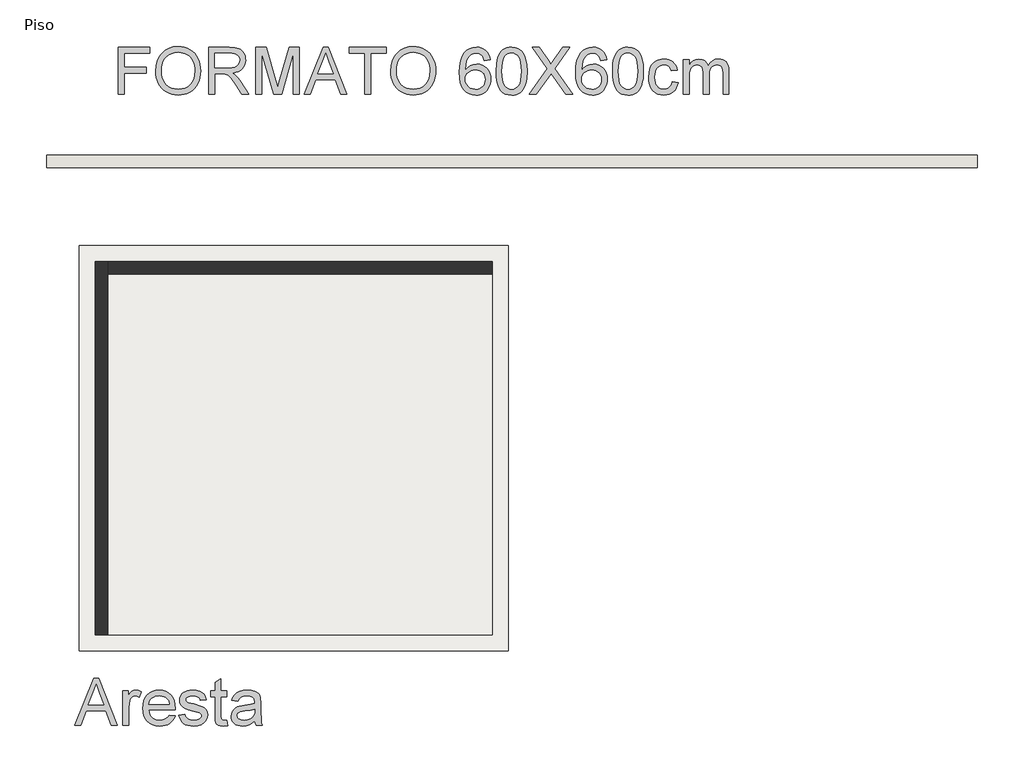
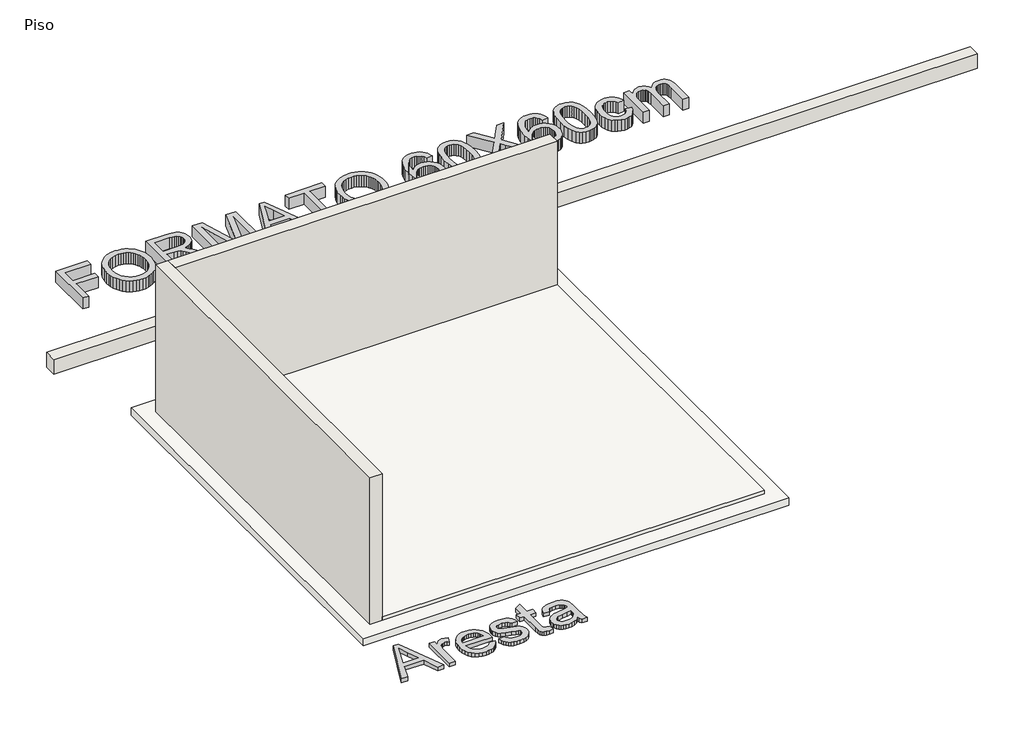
# One storey: 3 walls, 2 proxies, 2 slabs.
"""IFC4 building model written with IfcOpenShell, lengths in millimetres."""

from ifc_helpers import new_model, si_unit, frame, origin, origin_with_axes, place, context, project, spatial, polyline, outline, extrude, faceted_brep, element, save

model = new_model("IFC4")

# Units and contexts
model_context = context("Model", 3, world=origin())
ifc_project = project(units=[si_unit("LENGTHUNIT", "METRE", prefix="MILLI")], contexts=[model_context])

# Site, building, storey
site = spatial("IfcSite", under=ifc_project)
building = spatial("IfcBuilding", under=site)
storey = spatial("IfcBuildingStorey", under=building, Name="Piso", Elevation=0.0)

# Proxies
placement = place(None, origin())
element("IfcBuildingElementProxy", 1, Name="600mm Arial", ObjectType="600mm Arial", at=placement, inside=storey, context=model_context, shape_type="SweptSolid", body=[
    extrude(outline(polyline([(124602.0859381, 2702.6380465), (124602.0859381, 3305.3759074), (125007.0504384, 3305.3759074), (125007.0504384, 3230.0336748), (124677.4281707, 3230.0336748), (124677.4281707, 3051.0958724), (124959.961543, 3051.0958724), (124959.961543, 2975.7536397), (124677.4281707, 2975.7536397), (124677.4281707, 2702.6380465), (124602.0859381, 2702.6380465)])), origin_with_axes(), (0.0, 0.0, 1.0), 150.0),
    extrude(outline(polyline([(125082.392671, 2996.0607259), (125087.4142602, 3066.7584483), (125102.4790279, 3129.3443727), (125127.5869741, 3183.8184992), (125143.9071391, 3208.0136381), (125162.7380987, 3230.1808276), (125205.8262774, 3267.1989534), (125254.7453857, 3293.6404718), (125309.4954237, 3309.5053828), (125370.0763912, 3314.7936865), (125410.6261841, 3312.310483), (125449.134232, 3304.8608726), (125485.6005348, 3292.4448553), (125520.0250925, 3275.062431), (125551.4422148, 3253.2378317), (125578.8862117, 3227.495289), (125602.357083, 3197.8348032), (125621.8548287, 3164.2563741), (125637.1771138, 3127.5233569), (125648.1216032, 3088.3991067), (125654.6882968, 3046.8836235), (125656.8771947, 3002.9769074), (125654.5733337, 2958.4907771), (125647.6617507, 2916.4142739), (125636.1424457, 2876.7473978), (125620.0154187, 2839.4901487), (125599.6623474, 2805.6266111), (125575.4649091, 2776.1408692), (125547.423104, 2751.032923), (125515.5369321, 2730.3027726), (125481.0617906, 2714.0791766), (125445.2530769, 2702.4908937), (125408.110791, 2695.537924), (125369.6349328, 2693.2202674), (125328.3769671, 2695.7816458), (125289.3630815, 2703.465781), (125252.5932761, 2716.272673), (125218.0675508, 2734.2023217), (125186.6872166, 2756.56035), (125159.3535844, 2782.6523805), (125136.0666541, 2812.4784132), (125116.8264257, 2846.0384482), (125101.761658, 2881.9851177), (125091.0011097, 2918.9710538), (125084.5447807, 2956.9962565), (125082.392671, 2996.0607259)]), holes=[polyline([(125157.7349036, 2995.3249619), (125161.5010955, 2945.375784), (125172.7996713, 2901.0368065), (125191.6306309, 2862.3080295), (125217.9939744, 2829.1894529), (125250.0410947, 2802.665161), (125285.9233848, 2783.7192383), (125325.6408447, 2772.3516846), (125369.1934744, 2768.5625001), (125413.4910652, 2772.3884728), (125453.6775746, 2783.8663911), (125489.7530028, 2802.9962548), (125521.7173496, 2829.7780641), (125547.8875551, 2863.5956165), (125566.5805589, 2903.8327097), (125577.7963613, 2950.4893437), (125581.5349621, 3003.5655186), (125579.9346754, 3038.0452586), (125575.1338153, 3070.2625243), (125567.1323819, 3100.2173158), (125555.9303752, 3127.9096329), (125541.6519552, 3152.9761924), (125524.4212823, 3175.0537106), (125504.2383563, 3194.1421877), (125481.1031774, 3210.2416235), (125455.7331153, 3223.0209243), (125428.84554, 3232.1489963), (125400.4404514, 3237.6258395), (125370.5178496, 3239.4514539), (125328.4781346, 3235.9335823), (125289.4734461, 3225.3799676), (125253.503784, 3207.7906097), (125220.5691484, 3183.1655086), (125193.0791663, 3150.318245), (125173.4434648, 3108.0623993), (125161.6620439, 3056.3979716), (125157.7349036, 2995.3249619)])]), origin_with_axes(), (0.0, 0.0, 1.0), 150.0),
    extrude(outline(polyline([(125760.4727645, 2702.6380465), (125760.4727645, 3305.3759074), (126020.1974531, 3305.3759074), (126090.0030617, 3301.3108114), (126140.7891711, 3289.1155232), (126160.3880844, 3279.4218327), (126177.9084644, 3266.6011451), (126193.3503112, 3250.6534606), (126206.7136247, 3231.5787792), (126217.4971656, 3210.4025718), (126225.1996949, 3188.1503097), (126229.8212125, 3164.8219926), (126231.3617183, 3140.4176208), (126228.809537, 3109.4603509), (126221.152993, 3081.0414668), (126208.3920863, 3055.1609684), (126190.5268169, 3031.8188558), (126167.3272585, 3011.76009), (126138.563485, 2995.7296321), (126104.2354964, 2983.727482), (126064.3432925, 2975.7536397), (126089.1753272, 2959.5300438), (126107.1647568, 2943.527177), (126138.0300562, 2906.9229184), (126168.233168, 2865.9776524), (126268.738529, 2702.6380465), (126181.1826142, 2702.6380465), (126102.7501728, 2827.5707721), (126046.0963456, 2910.2706446), (126025.0351013, 2934.3853094), (126006.2915137, 2949.3397125), (125970.4598074, 2963.6871103), (125926.7554263, 2966.3358607), (125835.8149971, 2966.3358607), (125835.8149971, 2702.6380465), (125760.4727645, 2702.6380465)]), holes=[polyline([(125835.8149971, 3041.6780933), (126004.4521037, 3041.6780933), (126052.8837684, 3044.3452377), (126090.4629142, 3052.3466711), (126118.7530396, 3066.2158224), (126139.3176431, 3086.4861203), (126151.8440251, 3111.0054553), (126156.0194857, 3137.6217176), (126154.0283244, 3156.8895371), (126148.0548405, 3174.3731289), (126138.099034, 3190.0724931), (126124.1609049, 3203.9876296), (126105.9185565, 3215.3827744), (126083.050092, 3223.5221635), (126055.5555114, 3228.405797), (126023.4348147, 3230.0336748), (125835.8149971, 3230.0336748), (125835.8149971, 3041.6780933)])]), origin_with_axes(), (0.0, 0.0, 1.0), 150.0),
    extrude(outline(polyline([(126363.2106254, 2702.6380465), (126363.2106254, 3305.3759074), (126492.8522405, 3305.3759074), (126616.1662853, 2880.5457794), (126641.0351082, 2791.8126422), (126667.9640702, 2887.9034193), (126789.2179758, 3305.3759074), (126918.8595909, 3305.3759074), (126918.8595909, 2702.6380465), (126843.5173583, 2702.6380465), (126843.5173583, 3230.0336748), (126692.0971291, 2702.6380465), (126589.9730872, 2702.6380465), (126438.552858, 3230.0336748), (126438.552858, 2702.6380465), (126363.2106254, 2702.6380465)])), origin_with_axes(), (0.0, 0.0, 1.0), 150.0),
    extrude(outline(polyline([(126980.5166133, 2702.6380465), (127221.1114382, 3305.3759074), (127285.2700581, 3305.3759074), (127525.864883, 2702.6380465), (127446.2552192, 2702.6380465), (127377.2405569, 2890.9936281), (127128.9937866, 2890.9936281), (127060.1262771, 2702.6380465), (126980.5166133, 2702.6380465)]), holes=[polyline([(127156.6585126, 2966.3358607), (127349.7229837, 2966.3358607), (127295.4236012, 3114.5187283), (127253.1907481, 3230.0336748), (127215.6667846, 3127.4681746), (127156.6585126, 2966.3358607)])]), origin_with_axes(), (0.0, 0.0, 1.0), 150.0),
    extrude(outline(polyline([(127757.0419287, 2702.6380465), (127757.0419287, 3230.0336748), (127559.2685681, 3230.0336748), (127559.2685681, 3305.3759074), (128030.1575219, 3305.3759074), (128030.1575219, 3230.0336748), (127832.3841613, 3230.0336748), (127832.3841613, 2702.6380465), (127757.0419287, 2702.6380465)])), origin_with_axes(), (0.0, 0.0, 1.0), 150.0),
    extrude(outline(polyline([(128086.6641964, 2996.0607259), (128091.6857856, 3066.7584483), (128106.7505533, 3129.3443727), (128131.8584995, 3183.8184992), (128148.1786645, 3208.0136381), (128167.0096242, 3230.1808276), (128210.0978028, 3267.1989534), (128259.0169111, 3293.6404718), (128313.7669491, 3309.5053828), (128374.3479166, 3314.7936865), (128414.8977096, 3312.310483), (128453.4057574, 3304.8608726), (128489.8720602, 3292.4448553), (128524.2966179, 3275.062431), (128555.7137403, 3253.2378317), (128583.1577371, 3227.495289), (128606.6286084, 3197.8348032), (128626.1263541, 3164.2563741), (128641.4486392, 3127.5233569), (128652.3931286, 3088.3991067), (128658.9598222, 3046.8836235), (128661.1487201, 3002.9769074), (128658.8448591, 2958.4907771), (128651.9332761, 2916.4142739), (128640.4139711, 2876.7473978), (128624.2869442, 2839.4901487), (128603.9338728, 2805.6266111), (128579.7364345, 2776.1408692), (128551.6946295, 2751.032923), (128519.8084575, 2730.3027726), (128485.3333161, 2714.0791766), (128449.5246024, 2702.4908937), (128412.3823164, 2695.537924), (128373.9064582, 2693.2202674), (128332.6484925, 2695.7816458), (128293.6346069, 2703.465781), (128256.8648015, 2716.272673), (128222.3390762, 2734.2023217), (128190.958742, 2756.56035), (128163.6251098, 2782.6523805), (128140.3381795, 2812.4784132), (128121.0979512, 2846.0384482), (128106.0331835, 2881.9851177), (128095.2726351, 2918.9710538), (128088.8163061, 2956.9962565), (128086.6641964, 2996.0607259)]), holes=[polyline([(128162.006429, 2995.3249619), (128165.7726209, 2945.375784), (128177.0711967, 2901.0368065), (128195.9021564, 2862.3080295), (128222.2654998, 2829.1894529), (128254.3126201, 2802.665161), (128290.1949102, 2783.7192383), (128329.9123701, 2772.3516846), (128373.4649998, 2768.5625001), (128417.7625906, 2772.3884728), (128457.9491, 2783.8663911), (128494.0245282, 2802.9962548), (128525.988875, 2829.7780641), (128552.1590805, 2863.5956165), (128570.8520844, 2903.8327097), (128582.0678867, 2950.4893437), (128585.8064875, 3003.5655186), (128584.2062008, 3038.0452586), (128579.4053407, 3070.2625243), (128571.4039074, 3100.2173158), (128560.2019006, 3127.9096329), (128545.9234807, 3152.9761924), (128528.6928077, 3175.0537106), (128508.5098818, 3194.1421877), (128485.3747028, 3210.2416235), (128460.0046407, 3223.0209243), (128433.1170654, 3232.1489963), (128404.7119768, 3237.6258395), (128374.789375, 3239.4514539), (128332.74966, 3235.9335823), (128293.7449715, 3225.3799676), (128257.7753094, 3207.7906097), (128224.8406738, 3183.1655086), (128197.3506917, 3150.318245), (128177.7149902, 3108.0623993), (128165.9335693, 3056.3979716), (128162.006429, 2995.3249619)])]), origin_with_axes(), (0.0, 0.0, 1.0), 150.0),
    extrude(outline(polyline([(129358.0643717, 3145.2736631), (129282.7221391, 3135.855884), (129270.5820333, 3173.1959066), (129254.1744963, 3198.6901288), (129237.9784915, 3212.4029302), (129219.9982589, 3222.1977883), (129200.2337988, 3228.0747032), (129178.6851109, 3230.0336748), (129143.6627449, 3225.4719381), (129110.7005182, 3211.7867278), (129082.3919987, 3182.9631735), (129059.2706153, 3143.2871003), (129050.2345137, 3117.9814176), (129043.6540246, 3087.166702), (129037.8598831, 3009.0101721), (129068.081389, 3044.2716613), (129104.2993715, 3069.1220901), (129144.4904794, 3083.855764), (129186.631362, 3088.7669887), (129222.8309503, 3085.4100655), (129256.2346355, 3075.3392958), (129286.8424175, 3058.5546798), (129314.6542963, 3035.0562174), (129337.7664827, 3006.2418601), (129354.2751872, 2973.5095596), (129364.1804099, 2936.8593158), (129367.4821508, 2896.2911288), (129365.9278494, 2868.8241393), (129361.2649451, 2842.3412342), (129353.4934379, 2816.8424134), (129342.6133279, 2792.3276769), (129329.0108912, 2769.7121313), (129313.0724037, 2749.9108829), (129294.7978656, 2732.9239318), (129274.1872768, 2718.7512779), (129251.6820958, 2707.5814608), (129227.7237808, 2699.6030201), (129202.312332, 2694.8159556), (129175.4477493, 2693.2202674), (129130.5339562, 2697.4509104), (129089.9703678, 2710.1428392), (129053.7569839, 2731.2960539), (129021.8938045, 2760.9105546), (128995.9167372, 2800.2371398), (128977.361689, 2850.5266086), (128966.2286602, 2911.7789608), (128962.5176505, 2983.9941964), (128966.6379289, 3064.9558265), (128978.9987639, 3134.0532623), (128999.6001556, 3191.2865037), (129012.9910603, 3215.4540515), (129028.4421041, 3236.6555507), (129059.7028766, 3266.7207068), (129095.9484502, 3288.1958182), (129137.1788248, 3301.0808851), (129183.3940004, 3305.3759074), (129218.0944696, 3302.71796), (129249.502395, 3294.7441178), (129277.6177764, 3281.4543807), (129302.4406141, 3262.8487488), (129323.2995232, 3239.5526214), (129339.5231192, 3212.191398), (129351.111402, 3180.7650786), (129358.0643717, 3145.2736631)]), holes=[polyline([(129037.8598831, 2897.4683512), (129042.2192848, 2864.0830601), (129055.2974897, 2832.2060852), (129075.6045758, 2804.7988766), (129101.6506211, 2784.8228842), (129133.0861376, 2772.6275961), (129169.5616374, 2768.5625001), (129195.7502369, 2770.6686245), (129219.2808891, 2776.9869978), (129240.1535938, 2787.5176199), (129258.368351, 2802.2604908), (129273.1434117, 2820.6178024), (129283.6970264, 2841.9917463), (129290.0291953, 2866.3823226), (129292.1399182, 2893.7895312), (129290.0567864, 2920.1252835), (129283.807391, 2943.5087829), (129273.391732, 2963.9400292), (129258.8098094, 2981.4190225), (129240.5398699, 2995.4215309), (129219.0601599, 3005.4233227), (129194.3706795, 3011.4243977), (129166.4714287, 3013.4247561), (129140.632317, 3011.4243977), (129116.8257534, 3005.4233227), (129095.0517378, 2995.4215309), (129075.3102702, 2981.4190225), (129058.9257259, 2964.1699554), (129047.2224799, 2944.4284879), (129040.2005323, 2922.1946198), (129037.8598831, 2897.4683512)])]), origin_with_axes(), (0.0, 0.0, 1.0), 150.0),
    extrude(outline(polyline([(129433.4066044, 2999.1509346), (129438.9432284, 3095.6279879), (129445.8640084, 3136.5410643), (129455.5531005, 3172.5705072), (129467.9691178, 3204.0106222), (129483.0706737, 3231.1557149), (129500.8577682, 3254.0057853), (129521.3304012, 3272.5608335), (129544.5575507, 3286.9174283), (129570.6081945, 3297.1721389), (129599.4823325, 3303.3249653), (129631.179965, 3305.3759074), (129677.6066727, 3300.5198651), (129719.1773382, 3285.9517381), (129753.9421867, 3262.2417435), (129779.9514438, 3229.9600984), (129799.5963424, 3189.3827143), (129815.2681153, 3140.7855028), (129825.532023, 3079.0732981), (129828.9533256, 2999.1509346), (129823.4718838, 2903.2257044), (129816.6200817, 2862.4505838), (129807.0275587, 2826.4671261), (129794.7081103, 2795.0132155), (129779.6755323, 2767.8267361), (129761.9298246, 2744.9076878), (129741.4709871, 2726.2560706), (129718.2162465, 2711.8029067), (129692.0828293, 2701.4792182), (129663.0707354, 2695.2850051), (129631.179965, 2693.2202674), (129589.6828759, 2696.8071169), (129552.8946764, 2707.5676653), (129520.8153664, 2725.5019125), (129493.444946, 2750.6098587), (129467.1781715, 2795.9972999), (129448.4161898, 2852.5499596), (129437.1590007, 2920.2678378), (129433.4066044, 2999.1509346)]), holes=[polyline([(129508.748837, 2999.2980874), (129510.9561289, 2933.8012967), (129517.5780048, 2880.7849027), (129528.6144647, 2840.2489053), (129544.0655085, 2812.1933047), (129562.7539139, 2793.1048277), (129583.5024584, 2779.4702012), (129606.3111421, 2771.2894253), (129631.179965, 2768.5625001), (129656.0487878, 2771.2986224), (129678.8574715, 2779.5069894), (129699.6060161, 2793.1876011), (129718.2944214, 2812.3404575), (129733.7454652, 2840.4420434), (129744.7819251, 2880.9688437), (129751.403801, 2933.9208584), (129753.611093, 2999.2980874), (129751.4773774, 3063.0612342), (129745.0762307, 3115.1441277), (129734.4076528, 3155.5467678), (129719.4716438, 3184.2691546), (129701.0959381, 3204.2911322), (129680.1082703, 3218.5925448), (129656.5086403, 3227.1733923), (129630.2970482, 3230.0336748), (129605.556984, 3227.5136831), (129583.1345764, 3219.9537081), (129563.0298254, 3207.3537498), (129545.2427309, 3189.7138081), (129529.2766523, 3158.4438385), (129517.8723104, 3116.2845619), (129511.0297053, 3063.2359782), (129508.748837, 2999.2980874)])]), origin_with_axes(), (0.0, 0.0, 1.0), 150.0),
    extrude(outline(polyline([(129857.2066628, 2702.6380465), (130089.5609309, 3031.0830918), (129894.8777791, 3305.3759074), (129985.2295971, 3305.3759074), (130094.8584317, 3151.0126222), (130121.0148415, 3111.9067662), (130131.793784, 3090.8271278), (130175.0567066, 3152.0426918), (130283.5083188, 3305.3759074), (130375.184512, 3305.3759074), (130180.5013602, 3030.200175), (130412.8556283, 2702.6380465), (130322.5038103, 2702.6380465), (130167.6990667, 2921.0127989), (130135.4726039, 2966.3358607), (130100.0087796, 2916.5982149), (129948.882856, 2702.6380465), (129857.2066628, 2702.6380465)])), origin_with_axes(), (0.0, 0.0, 1.0), 150.0),
    extrude(outline(polyline([(130846.0734658, 3145.2736631), (130770.7312332, 3135.855884), (130758.5911274, 3173.1959066), (130742.1835904, 3198.6901288), (130725.9875856, 3212.4029302), (130708.007353, 3222.1977883), (130688.2428928, 3228.0747032), (130666.694205, 3230.0336748), (130631.671839, 3225.4719381), (130598.7096123, 3211.7867278), (130570.4010927, 3182.9631735), (130547.2797093, 3143.2871003), (130538.2436078, 3117.9814176), (130531.6631187, 3087.166702), (130525.8689772, 3009.0101721), (130556.0904831, 3044.2716613), (130592.3084656, 3069.1220901), (130632.4995735, 3083.855764), (130674.6404561, 3088.7669887), (130710.8400444, 3085.4100655), (130744.2437296, 3075.3392958), (130774.8515116, 3058.5546798), (130802.6633904, 3035.0562174), (130825.7755767, 3006.2418601), (130842.2842813, 2973.5095596), (130852.189504, 2936.8593158), (130855.4912449, 2896.2911288), (130853.9369435, 2868.8241393), (130849.2740392, 2842.3412342), (130841.502532, 2816.8424134), (130830.622422, 2792.3276769), (130817.0199853, 2769.7121313), (130801.0814978, 2749.9108829), (130782.8069597, 2732.9239318), (130762.1963709, 2718.7512779), (130739.6911899, 2707.5814608), (130715.7328749, 2699.6030201), (130690.3214261, 2694.8159556), (130663.4568434, 2693.2202674), (130618.5430503, 2697.4509104), (130577.9794618, 2710.1428392), (130541.7660779, 2731.2960539), (130509.9028986, 2760.9105546), (130483.9258313, 2800.2371398), (130465.3707831, 2850.5266086), (130454.2377542, 2911.7789608), (130450.5267446, 2983.9941964), (130454.647023, 3064.9558265), (130467.007858, 3134.0532623), (130487.6092497, 3191.2865037), (130501.0001544, 3215.4540515), (130516.4511982, 3236.6555507), (130547.7119707, 3266.7207068), (130583.9575443, 3288.1958182), (130625.1879189, 3301.0808851), (130671.4030945, 3305.3759074), (130706.1035637, 3302.71796), (130737.5114891, 3294.7441178), (130765.6268705, 3281.4543807), (130790.4497082, 3262.8487488), (130811.3086173, 3239.5526214), (130827.5322133, 3212.191398), (130839.1204961, 3180.7650786), (130846.0734658, 3145.2736631)]), holes=[polyline([(130525.8689772, 2897.4683512), (130530.2283789, 2864.0830601), (130543.3065838, 2832.2060852), (130563.6136699, 2804.7988766), (130589.6597152, 2784.8228842), (130621.0952317, 2772.6275961), (130657.5707315, 2768.5625001), (130683.759331, 2770.6686245), (130707.2899831, 2776.9869978), (130728.1626879, 2787.5176199), (130746.3774451, 2802.2604908), (130761.1525058, 2820.6178024), (130771.7061205, 2841.9917463), (130778.0382893, 2866.3823226), (130780.1490123, 2893.7895312), (130778.0658805, 2920.1252835), (130771.8164851, 2943.5087829), (130761.4008261, 2963.9400292), (130746.8189035, 2981.4190225), (130728.5489639, 2995.4215309), (130707.069254, 3005.4233227), (130682.3797736, 3011.4243977), (130654.4805227, 3013.4247561), (130628.6414111, 3011.4243977), (130604.8348475, 3005.4233227), (130583.0608319, 2995.4215309), (130563.3193643, 2981.4190225), (130546.93482, 2964.1699554), (130535.231574, 2944.4284879), (130528.2096264, 2922.1946198), (130525.8689772, 2897.4683512)])]), origin_with_axes(), (0.0, 0.0, 1.0), 150.0),
    extrude(outline(polyline([(130921.4156984, 2999.1509346), (130926.9523225, 3095.6279879), (130933.8731025, 3136.5410643), (130943.5621946, 3172.5705072), (130955.9782119, 3204.0106222), (130971.0797678, 3231.1557149), (130988.8668623, 3254.0057853), (131009.3394953, 3272.5608335), (131032.5666448, 3286.9174283), (131058.6172885, 3297.1721389), (131087.4914266, 3303.3249653), (131119.189059, 3305.3759074), (131165.6157668, 3300.5198651), (131207.1864323, 3285.9517381), (131241.9512808, 3262.2417435), (131267.9605379, 3229.9600984), (131287.6054364, 3189.3827143), (131303.2772094, 3140.7855028), (131313.5411171, 3079.0732981), (131316.9624197, 2999.1509346), (131311.4809779, 2903.2257044), (131304.6291758, 2862.4505838), (131295.0366527, 2826.4671261), (131282.7172044, 2795.0132155), (131267.6846264, 2767.8267361), (131249.9389187, 2744.9076878), (131229.4800812, 2726.2560706), (131206.2253406, 2711.8029067), (131180.0919234, 2701.4792182), (131151.0798295, 2695.2850051), (131119.189059, 2693.2202674), (131077.69197, 2696.8071169), (131040.9037705, 2707.5676653), (131008.8244605, 2725.5019125), (130981.4540401, 2750.6098587), (130955.1872656, 2795.9972999), (130936.4252838, 2852.5499596), (130925.1680948, 2920.2678378), (130921.4156984, 2999.1509346)]), holes=[polyline([(130996.7579311, 2999.2980874), (130998.965223, 2933.8012967), (131005.5870989, 2880.7849027), (131016.6235588, 2840.2489053), (131032.0746026, 2812.1933047), (131050.7630079, 2793.1048277), (131071.5115525, 2779.4702012), (131094.3202362, 2771.2894253), (131119.189059, 2768.5625001), (131144.0578819, 2771.2986224), (131166.8665656, 2779.5069894), (131187.6151102, 2793.1876011), (131206.3035155, 2812.3404575), (131221.7545593, 2840.4420434), (131232.7910192, 2880.9688437), (131239.4128951, 2933.9208584), (131241.620187, 2999.2980874), (131239.4864715, 3063.0612342), (131233.0853248, 3115.1441277), (131222.4167469, 3155.5467678), (131207.4807379, 3184.2691546), (131189.1050322, 3204.2911322), (131168.1173644, 3218.5925448), (131144.5177344, 3227.1733923), (131118.3061423, 3230.0336748), (131093.5660781, 3227.5136831), (131071.1436705, 3219.9537081), (131051.0389194, 3207.3537498), (131033.251825, 3189.7138081), (131017.2857464, 3158.4438385), (131005.8814045, 3116.2845619), (130999.0387994, 3063.2359782), (130996.7579311, 2999.2980874)])]), origin_with_axes(), (0.0, 0.0, 1.0), 150.0),
    extrude(outline(polyline([(131684.2558036, 2862.7402908), (131759.5980363, 2853.3225117), (131751.4034648, 2817.7713154), (131738.5919743, 2786.3128063), (131721.1635648, 2758.9469844), (131699.1182362, 2735.6738497), (131673.3848907, 2717.1004075), (131644.8924302, 2703.833663), (131613.6408547, 2695.8736163), (131579.6301642, 2693.2202674), (131537.3743185, 2696.92208), (131499.4870716, 2708.0275178), (131465.9684233, 2726.5365806), (131436.8183737, 2752.4492687), (131413.2233422, 2785.2781382), (131396.3697483, 2824.5357456), (131386.257592, 2870.2220909), (131382.8868732, 2922.337174), (131388.6442264, 2989.3836677), (131395.8409179, 3019.5545898), (131405.9162861, 3047.4906288), (131418.9393087, 3072.6307646), (131434.9789637, 3094.4139773), (131454.0352511, 3112.8402667), (131476.1081708, 3127.9096329), (131500.1998429, 3139.6266745), (131525.3123876, 3147.9959899), (131551.4458049, 3153.0175791), (131578.6000946, 3154.6914422), (131612.0267724, 3152.3921797), (131642.2620739, 3145.4943923), (131669.3059991, 3133.99808), (131693.1585479, 3117.9032427), (131713.4150503, 3097.5777624), (131729.6708359, 3073.3895213), (131741.9259049, 3045.3385191), (131750.1802572, 3013.4247561), (131674.8380246, 3004.006977), (131661.1712084, 3036.8772332), (131639.889235, 3060.440075), (131612.1693267, 3074.6219259), (131579.1887058, 3079.3492096), (131553.5887175, 3077.022356), (131530.4995238, 3070.0417951), (131509.9211247, 3058.407527), (131491.8535202, 3042.1195517), (131477.1428389, 3020.8007901), (131466.6352094, 2994.0741631), (131460.3306317, 2961.9396708), (131458.2291058, 2924.3973132), (131460.2846465, 2886.289337), (131466.4512684, 2853.7823642), (131476.7289716, 2826.8763948), (131491.1177562, 2805.5714288), (131508.8266757, 2789.3800225), (131529.064784, 2777.8147322), (131551.832081, 2770.8755581), (131577.1285666, 2768.5625001), (131616.1424522, 2774.3382474), (131633.0144402, 2781.5579315), (131648.1297917, 2791.6654894), (131661.0654424, 2804.7712854), (131671.3983279, 2820.9856844), (131679.1284483, 2840.3086862), (131684.2558036, 2862.7402908)])), origin_with_axes(), (0.0, 0.0, 1.0), 150.0),
    extrude(outline(polyline([(131825.5224898, 2702.6380465), (131825.5224898, 3145.2736631), (131900.8647224, 3145.2736631), (131900.8647224, 3072.4330281), (131923.5262533, 3105.8918955), (131952.6625073, 3132.1034877), (131987.2802031, 3149.0444536), (132026.3860592, 3154.6914422), (132068.2878184, 3148.934089), (132086.1208981, 3141.7373974), (132101.8754446, 3131.6620293), (132126.9649966, 3104.0156974), (132143.3725336, 3067.1355273), (132170.8349246, 3105.4412401), (132202.1600765, 3132.8024635), (132237.3479893, 3149.2191975), (132276.3986631, 3154.6914422), (132306.5603882, 3152.4151724), (132333.0340962, 3145.5863628), (132355.8197873, 3134.2050136), (132374.9174614, 3118.2711247), (132390.0144188, 3097.6007551), (132400.7979597, 3072.0099638), (132407.2680843, 3041.4987508), (132409.4247925, 3006.0671161), (132409.4247925, 2702.6380465), (132334.0825599, 2702.6380465), (132334.0825599, 2973.6935006), (132332.3351204, 3011.2726464), (132327.092802, 3036.6013217), (132317.2703527, 3053.9469578), (132301.7825207, 3067.5769857), (132281.8617107, 3076.4061536), (132258.7403273, 3079.3492096), (132237.389376, 3077.4638144), (132217.9238199, 3071.8076287), (132200.3436591, 3062.3806526), (132184.6488935, 3049.182886), (132171.740834, 3031.8280529), (132162.5207915, 3009.9298771), (132156.988766, 2983.4883587), (132155.1447575, 2952.5034976), (132155.1447575, 2702.6380465), (132079.8025249, 2702.6380465), (132079.8025249, 2982.0812101), (132075.4431232, 3024.6819451), (132069.9938712, 3041.4021818), (132062.3649183, 3055.0689979), (132052.2527619, 3065.6915905), (132039.3538995, 3073.2791567), (132023.6683309, 3077.8316964), (132005.1960562, 3079.3492096), (131976.1701668, 3075.3025076), (131949.4251458, 3063.1624018), (131927.3522261, 3043.2231977), (131912.3426407, 3015.7792008), (131903.734202, 2977.7034143), (131900.8647224, 2925.8688412), (131900.8647224, 2702.6380465), (131825.5224898, 2702.6380465)])), origin_with_axes(), (0.0, 0.0, 1.0), 150.0),
])
element("IfcBuildingElementProxy", 2, Name="600mm Arial", ObjectType="600mm Arial", at=placement, inside=storey, context=model_context, shape_type="SweptSolid", body=[
    extrude(outline(polyline([(124046.8170534, -5369.1849345), (124287.4118782, -4766.4470736), (124351.5704982, -4766.4470736), (124592.1653231, -5369.1849345), (124512.5556593, -5369.1849345), (124443.540997, -5180.8293529), (124195.2942267, -5180.8293529), (124126.4267172, -5369.1849345), (124046.8170534, -5369.1849345)]), holes=[polyline([(124222.9589527, -5105.4871203), (124416.0234238, -5105.4871203), (124361.7240413, -4957.3042527), (124319.4911882, -4841.7893062), (124281.9672247, -4944.3548064), (124222.9589527, -5105.4871203)])]), origin_with_axes(), (0.0, 0.0, 1.0), 50.0),
    extrude(outline(polyline([(124663.2401245, -5369.1849345), (124663.2401245, -4926.5493179), (124729.1645781, -4926.5493179), (124729.1645781, -4992.032313), (124753.5183661, -4954.0668911), (124775.9591678, -4931.6996658), (124798.4735459, -4920.7735706), (124823.0480632, -4917.1315388), (124860.5720267, -4922.9440743), (124898.6846014, -4940.3816809), (124873.521473, -5007.9248152), (124847.0339693, -4996.3365324), (124820.5464657, -4992.4737714), (124798.0504817, -4996.1893796), (124777.9457306, -5007.336204), (124761.7037405, -5025.0681162), (124750.7960394, -5048.5389875), (124741.6357777, -5090.6246877), (124738.5823571, -5136.5363607), (124738.5823571, -5369.1849345), (124663.2401245, -5369.1849345)])), origin_with_axes(), (0.0, 0.0, 1.0), 50.0),
    extrude(outline(polyline([(125255.6772896, -5237.3360274), (125329.5479942, -5246.7538065), (125318.2218273, -5276.3407159), (125302.9317318, -5302.4143524), (125283.6777079, -5324.9747157), (125260.4597555, -5344.021806), (125233.5169979, -5359.1509531), (125203.0885583, -5369.9574867), (125169.1744369, -5376.4414068), (125131.7746336, -5378.6027136), (125085.026029, -5374.8733098), (125043.3725901, -5363.6850986), (125006.8143169, -5345.03808), (124975.3512092, -5318.9322539), (124950.050125, -5286.0941873), (124931.977922, -5247.2504472), (124921.1346002, -5202.4010334), (124917.5201596, -5151.5459461), (124921.1713884, -5098.966412), (124932.1250748, -5052.6224776), (124950.3812188, -5012.5141431), (124975.9398204, -4978.6414084), (125007.3201546, -4951.7308404), (125043.0414963, -4932.5090062), (125083.1038456, -4920.9759057), (125127.5072024, -4917.1315388), (125170.480418, -4920.9667086), (125209.3425523, -4932.472218), (125244.0936052, -4951.648067), (125274.7335769, -4978.4942556), (125299.7449541, -5012.2934139), (125317.6102234, -5052.328172), (125328.3293851, -5098.59853), (125331.902439, -5151.1044877), (125331.4609806, -5171.4115739), (124992.8623922, -5171.4115739), (124997.2263924, -5201.4767299), (125005.9038089, -5227.8078837), (125018.8946419, -5250.4050353), (125036.1988912, -5269.2681846), (125056.8600638, -5284.1398142), (125079.9216664, -5294.7624069), (125105.3836989, -5301.1359624), (125133.2461616, -5303.2604809), (125173.345299, -5299.3241436), (125207.1168662, -5287.5151315), (125234.560863, -5267.0976808), (125255.6772896, -5237.3360274)]), holes=[polyline([(124992.8623922, -5096.0693413), (125256.5602063, -5096.0693413), (125246.3698751, -5056.2645094), (125237.6050865, -5040.6111305), (125226.3938827, -5027.790443), (125205.8476733, -5012.3393992), (125182.4687725, -5001.3029393), (125156.2571804, -4994.6810634), (125127.2128968, -4992.4737714), (125100.7207947, -4994.2350065), (125076.4267874, -4999.5187116), (125054.3308751, -5008.3248869), (125034.4330577, -5020.6535322), (125017.7358136, -5035.9344306), (125005.2416213, -5053.5973649), (124996.9504809, -5073.6423351), (124992.8623922, -5096.0693413)])]), origin_with_axes(), (0.0, 0.0, 1.0), 50.0),
    extrude(outline(polyline([(125378.9913343, -5237.3360274), (125454.3335669, -5227.9182483), (125458.8861066, -5245.0983375), (125466.2161554, -5260.1447111), (125476.3237132, -5273.0573691), (125489.2087801, -5283.8363116), (125504.9081442, -5292.3343857), (125523.4585938, -5298.4044386), (125569.1127494, -5303.2604809), (125614.2150821, -5298.8091088), (125631.7446591, -5293.2448936), (125645.92651, -5285.4549924), (125664.6884918, -5266.1043994), (125669.3789872, -5255.2702747), (125670.9424857, -5243.6635977), (125669.3697902, -5233.4916606), (125664.6517036, -5224.4601576), (125645.7793572, -5209.8184542), (125617.5628082, -5200.2535223), (125568.2298327, -5188.3341456), (125499.4726878, -5168.4501238), (125454.7750253, -5151.4723697), (125426.0618356, -5132.9495113), (125405.2581088, -5108.4301763), (125392.6213623, -5079.4778633), (125388.4091134, -5047.6560707), (125391.7936278, -5018.4646344), (125401.9471708, -4991.5172782), (125417.9500376, -4967.88086), (125438.8825232, -4948.6222376), (125459.68625, -4936.5005258), (125486.7807589, -4926.3285887), (125518.1059108, -4919.4308013), (125551.6015665, -4917.1315388), (125600.6402364, -4920.8287529), (125643.2777597, -4931.920395), (125677.5643616, -4949.3212134), (125701.5502677, -4971.9459561), (125717.4427699, -5001.4684862), (125727.4491602, -5039.5626668), (125652.1069276, -5048.9804459), (125642.597178, -5025.2704513), (125623.7800139, -5007.4097804), (125595.4714944, -4996.2077737), (125557.4876784, -4992.4737714), (125514.2247558, -4996.0422268), (125485.3828073, -5006.7475928), (125469.1592114, -5022.1986366), (125463.751346, -5040.0041252), (125465.9954262, -5051.592408), (125472.7276667, -5061.9298921), (125484.2423732, -5071.1637302), (125500.8338511, -5078.5581583), (125565.7282351, -5094.5978133), (125676.3135628, -5130.0616376), (125705.5233933, -5147.0209976), (125727.6698894, -5170.2343515), (125741.6310111, -5199.7752757), (125746.2847183, -5235.7173466), (125740.8216707, -5272.8734281), (125724.4325278, -5307.8222177), (125697.7426891, -5337.8229944), (125661.3775538, -5360.1350374), (125617.4524436, -5373.9857945), (125568.0826799, -5378.6027136), (125527.5328869, -5376.3770275), (125492.1150479, -5369.6999693), (125461.8291626, -5358.5715389), (125436.6752312, -5342.9917364), (125416.1290218, -5323.0341382), (125399.6663025, -5298.7723206), (125387.2870733, -5270.2062837), (125378.9913343, -5237.3360274)])), origin_with_axes(), (0.0, 0.0, 1.0), 50.0),
    extrude(outline(polyline([(125991.1469743, -5306.3506897), (126000.5647534, -5371.3922264), (125944.2052317, -5378.6027136), (125908.0424316, -5375.4757166), (125881.0766814, -5366.0947257), (125862.020394, -5351.6369633), (125849.5859826, -5333.2796517), (125842.7433775, -5301.7521648), (125840.4625091, -5247.7838761), (125840.4625091, -5001.8915505), (125783.9558346, -5001.8915505), (125783.9558346, -4926.5493179), (125840.4625091, -4926.5493179), (125840.4625091, -4818.9806225), (125915.8047417, -4774.6876303), (125915.8047417, -4926.5493179), (125991.1469743, -4926.5493179), (125991.1469743, -5001.8915505), (125915.8047417, -5001.8915505), (125915.8047417, -5245.5765841), (125919.7778672, -5284.4249228), (125932.6537371, -5298.1837094), (125943.52465, -5301.9912881), (125958.3319003, -5303.2604809), (125991.1469743, -5306.3506897)])), origin_with_axes(), (0.0, 0.0, 1.0), 50.0),
    extrude(outline(polyline([(126349.0225792, -5312.67826), (126313.025326, -5343.5435594), (126275.961215, -5363.7402809), (126236.9841176, -5374.8871054), (126195.2479052, -5378.6027136), (126161.7016658, -5376.3678304), (126132.2849018, -5369.6631811), (126106.9976131, -5358.4887655), (126085.8397999, -5342.8445836), (126069.1333588, -5323.7239169), (126057.2001865, -5302.1200468), (126050.0402832, -5278.0329731), (126047.6536488, -5251.462696), (126051.2588923, -5220.2295146), (126062.074623, -5191.8658128), (126078.7580715, -5167.5856011), (126099.9664685, -5148.6028902), (126124.8904737, -5134.2554924), (126152.7207466, -5123.8812201), (126217.9094361, -5112.5504546), (126294.9439259, -5100.631078), (126348.5811208, -5086.6515622), (126349.0225792, -5069.8761432), (126343.8354431, -5036.2517288), (126337.3515229, -5023.7989233), (126328.2740347, -5014.2523855), (126312.5838676, -5004.7242419), (126293.4723979, -4997.9184249), (126244.985551, -4992.4737714), (126200.1039476, -4996.0974091), (126168.7604016, -5006.968322), (126147.3864577, -5027.0730731), (126132.4136605, -5058.3982249), (126057.0714278, -5048.9804459), (126070.1496328, -5007.7776624), (126089.6657726, -4975.4040468), (126117.4408633, -4950.6455886), (126155.2959206, -4932.288277), (126201.5938697, -4920.9207234), (126254.6976357, -4917.1315388), (126305.6308979, -4920.479265), (126346.0059469, -4930.5224434), (126376.448182, -4945.6239993), (126397.5830026, -4964.1468578), (126411.5993066, -4987.047512), (126420.6859919, -5015.2824551), (126424.3648118, -5081.2069087), (126424.3648118, -5174.943241), (126428.1907846, -5305.8356549), (126433.8561673, -5338.1908764), (126443.20037, -5369.1849345), (126367.8581374, -5369.1849345), (126355.7916079, -5342.9917364), (126349.0225792, -5312.67826)]), holes=[polyline([(126349.0225792, -5161.9937948), (126298.4020167, -5174.5385708), (126227.474368, -5185.0967841), (126162.6535605, -5197.3104663), (126145.786171, -5205.6613876), (126133.2965772, -5217.1760941), (126125.5710553, -5230.9716689), (126122.9958814, -5246.1651953), (126128.6060818, -5268.5692088), (126145.4366831, -5286.9265204), (126173.1198032, -5299.1769908), (126211.2875602, -5303.2604809), (126251.7545797, -5298.7539265), (126287.5127096, -5285.2342632), (126316.5018108, -5265.3134531), (126336.6617442, -5241.6034585), (126345.6012767, -5217.1760941), (126348.5811208, -5183.3309505), (126349.0225792, -5161.9937948)])]), origin_with_axes(), (0.0, 0.0, 1.0), 50.0),
])

# Slabs
element("IfcSlab", 3, ObjectType="5cm - Porcelanato Aresta  - Acetinado 60X60", at=placement, inside=storey, context=model_context, shape_type="SweptSolid", body=[
    extrude(outline(polyline([(129386.699165, 406.9486968), (129386.699165, -4213.6513032), (124466.099165, -4213.6513032), (124466.099165, 406.9486968), (129386.699165, 406.9486968)])), origin_with_axes(), (0.0, 0.0, 1.0), 50.0),
])
element("IfcSlab", 4, ObjectType="CO02 - Concreto Estrutural Simples", at=placement, inside=storey, context=model_context, shape_type="SweptSolid", body=[
    extrude(outline(polyline([(129586.699165, 765.7486968), (129586.699165, -4413.6513032), (124107.299165, -4413.6513032), (124107.299165, 765.7486968), (129586.699165, 765.7486968)])), frame((0.0, 0.0, -100.0), z_axis=(0.0, 0.0, 1.0), x_axis=(1.0, 0.0, 0.0)), (0.0, 0.0, 1.0), 100.0),
])

# Walls
element("IfcWall", 5, ObjectType="CO01 - Bloco de Concreto 14cm / Pintura Branca Simples", at=placement, inside=storey, context=model_context, shape_type="SweptSolid", body=[
    extrude(outline(polyline([(135586.699165, 1765.7486968), (123686.699165, 1765.7486968), (123686.699165, 1924.5486968), (135586.699165, 1924.5486968), (135586.699165, 1765.7486968)])), origin_with_axes(), (0.0, 0.0, 1.0), 200.0),
])
element("IfcWall", 6, ObjectType="CO01 - Bloco de Concreto 14cm / Pintura Branca Simples", at=placement, inside=storey, context=model_context, shape_type="Brep", body=[
    faceted_brep([(124466.099165, -4213.6513032, 0.0), (124466.099165, 406.9486968, 0.0), (124466.099165, 565.7486968, 0.0), (124466.099165, 565.7486968, 2000.0), (124466.099165, 406.9486968, 2000.0), (124466.099165, -4213.6513032, 2000.0), (124307.299165, -4213.6513032, 0.0), (124307.299165, -4213.6513032, 2000.0), (124307.299165, 565.7486968, 2000.0), (124307.299165, 565.7486968, 0.0)], [[[0, 1, 2, 3, 4, 5]], [[6, 7, 8, 9]], [[2, 1, 0, 6, 9]], [[5, 4, 3, 8, 7]], [[0, 5, 7, 6]], [[3, 2, 9, 8]]]),
])
element("IfcWall", 7, ObjectType="CO01 - Bloco de Concreto 14cm / Pintura Branca Simples", at=placement, inside=storey, context=model_context, shape_type="SweptSolid", body=[
    extrude(outline(polyline([(129386.699165, 406.9486968), (124466.099165, 406.9486968), (124466.099165, 565.7486968), (129386.699165, 565.7486968), (129386.699165, 406.9486968)])), origin_with_axes(), (0.0, 0.0, 1.0), 2000.0),
])

save(model, "model.ifc")
